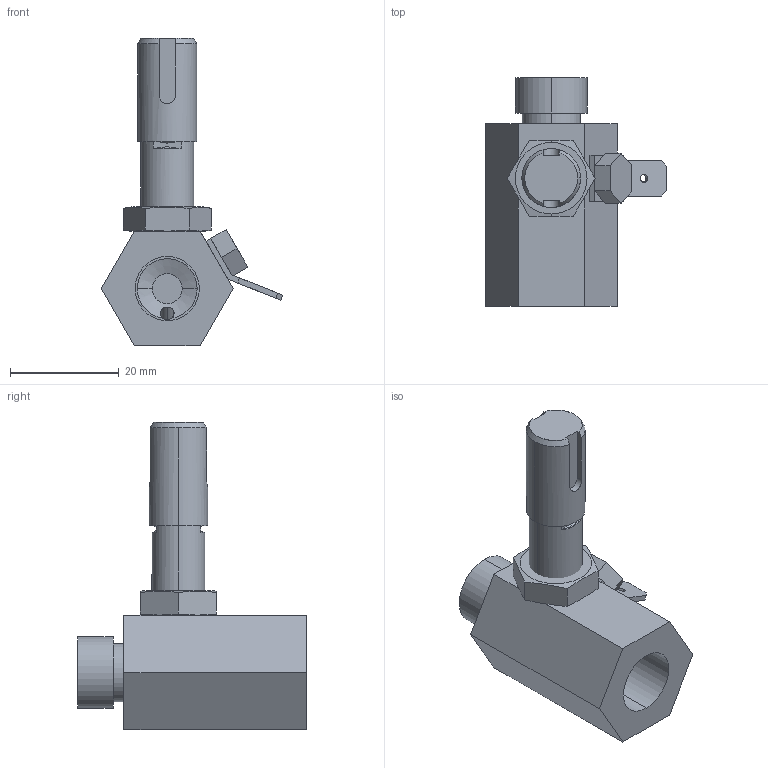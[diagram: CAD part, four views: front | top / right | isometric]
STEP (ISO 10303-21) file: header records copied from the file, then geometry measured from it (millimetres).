
FILE_DESCRIPTION (( 'STEP AP203' ), '1' );
FILE_NAME ('2EJR21C1416000A.STEP', '2017-04-20T10:16:26', ( 'FMI' ), ( 'Hewlett-Packard Company' ), 'SwSTEP 2.0', 'SolidWorks 2010', '' );
FILE_SCHEMA (( 'CONFIG_CONTROL_DESIGN' ));
Length unit declared in the file: millimetre
Products named in the file (6): F64.D250.18; Mélangeur 1.6_2EJR21_Version light; F82.534929; C29_Vis H acier ZB CL8.8_vis H M 5x  8 ; 2EJR21C1416000A; Corps 2EJR21_Avec prise vacuostatique
Assembly tree (5 placements, depth 2):
  2EJR21C1416000A
    F64.D250.18
    Corps 2EJR21_Avec prise vacuostatique
    C29_Vis H acier ZB CL8.8_vis H M 5x  8 
    F82.534929
    Mélangeur 1.6_2EJR21_Version light
Bounding box: 33.35 x 42 x 56.5 mm (x, y, z)
Volume: 14881 mm3; surface area: 7766.4 mm2
Topology: 5 solids, 5 shells, 131 faces, 324 edges, 209 vertices
Faces by surface type: plane 65, cylinder 39, cone 21, torus 6
Entity records: 4804 total; most frequent: CARTESIAN_POINT 1032, DIRECTION 668, ORIENTED_EDGE 644, EDGE_CURVE 322, AXIS2_PLACEMENT_3D 247, VERTEX_POINT 209, LINE 174, VECTOR 174
